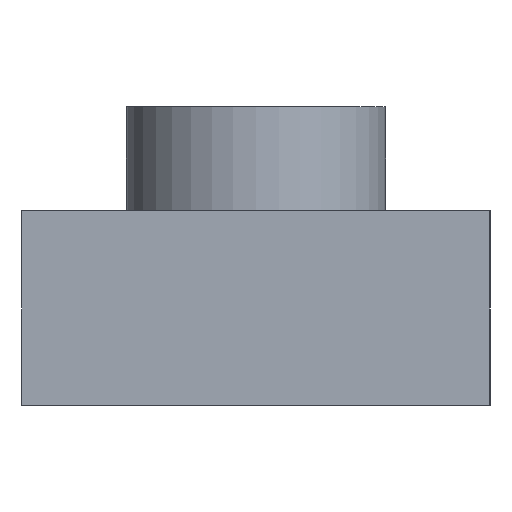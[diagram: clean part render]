
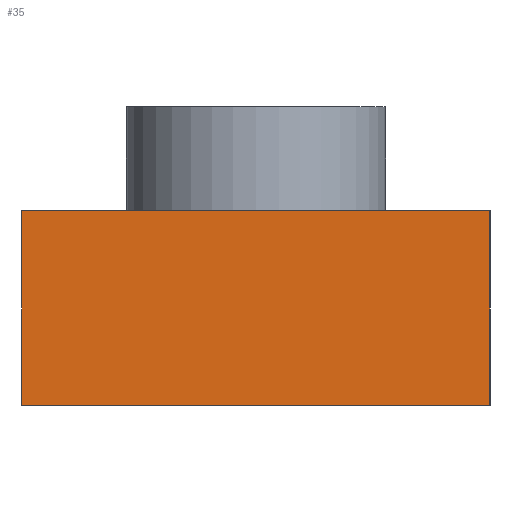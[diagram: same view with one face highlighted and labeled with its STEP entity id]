
A CAD part, left-side view. The second image highlights one B-rep face of the part: STEP entity #35.
In plain terms, the highlighted planar face has unit normal (-1, 0, 0).
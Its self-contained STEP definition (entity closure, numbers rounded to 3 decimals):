
#35 = ADVANCED_FACE('',(#36),#50,.F.);
#36 = FACE_BOUND('',#37,.F.);
#37 = EDGE_LOOP('',(#38,#73,#101,#129));
#38 = ORIENTED_EDGE('',*,*,#39,.F.);
#39 = EDGE_CURVE('',#40,#42,#44,.T.);
#40 = VERTEX_POINT('',#41);
#41 = CARTESIAN_POINT('',(14.2,-173.8,22.5));
#42 = VERTEX_POINT('',#43);
#43 = CARTESIAN_POINT('',(14.2,-173.8,24.));
#44 = SURFACE_CURVE('',#45,(#49,#61),.PCURVE_S1.);
#45 = LINE('',#46,#47);
#46 = CARTESIAN_POINT('',(14.2,-173.8,22.5));
#47 = VECTOR('',#48,1.);
#48 = DIRECTION('',(0.,0.,1.));
#49 = PCURVE('',#50,#55);
#50 = PLANE('',#51);
#51 = AXIS2_PLACEMENT_3D('',#52,#53,#54);
#52 = CARTESIAN_POINT('',(14.2,-173.8,22.5));
#53 = DIRECTION('',(1.,0.,0.));
#54 = DIRECTION('',(0.,0.,1.));
#55 = DEFINITIONAL_REPRESENTATION('',(#56),#60);
#56 = LINE('',#57,#58);
#57 = CARTESIAN_POINT('',(0.,0.));
#58 = VECTOR('',#59,1.);
#59 = DIRECTION('',(1.,0.));
#60 = ( GEOMETRIC_REPRESENTATION_CONTEXT(2) 
PARAMETRIC_REPRESENTATION_CONTEXT() REPRESENTATION_CONTEXT('2D SPACE',''
  ) );
#61 = PCURVE('',#62,#67);
#62 = PLANE('',#63);
#63 = AXIS2_PLACEMENT_3D('',#64,#65,#66);
#64 = CARTESIAN_POINT('',(14.2,-173.8,22.5));
#65 = DIRECTION('',(0.,1.,0.));
#66 = DIRECTION('',(0.,0.,1.));
#67 = DEFINITIONAL_REPRESENTATION('',(#68),#72);
#68 = LINE('',#69,#70);
#69 = CARTESIAN_POINT('',(0.,0.));
#70 = VECTOR('',#71,1.);
#71 = DIRECTION('',(1.,0.));
#72 = ( GEOMETRIC_REPRESENTATION_CONTEXT(2) 
PARAMETRIC_REPRESENTATION_CONTEXT() REPRESENTATION_CONTEXT('2D SPACE',''
  ) );
#73 = ORIENTED_EDGE('',*,*,#74,.T.);
#74 = EDGE_CURVE('',#40,#75,#77,.T.);
#75 = VERTEX_POINT('',#76);
#76 = CARTESIAN_POINT('',(14.2,-170.2,22.5));
#77 = SURFACE_CURVE('',#78,(#82,#89),.PCURVE_S1.);
#78 = LINE('',#79,#80);
#79 = CARTESIAN_POINT('',(14.2,-173.8,22.5));
#80 = VECTOR('',#81,1.);
#81 = DIRECTION('',(0.,1.,0.));
#82 = PCURVE('',#50,#83);
#83 = DEFINITIONAL_REPRESENTATION('',(#84),#88);
#84 = LINE('',#85,#86);
#85 = CARTESIAN_POINT('',(0.,0.));
#86 = VECTOR('',#87,1.);
#87 = DIRECTION('',(0.,-1.));
#88 = ( GEOMETRIC_REPRESENTATION_CONTEXT(2) 
PARAMETRIC_REPRESENTATION_CONTEXT() REPRESENTATION_CONTEXT('2D SPACE',''
  ) );
#89 = PCURVE('',#90,#95);
#90 = PLANE('',#91);
#91 = AXIS2_PLACEMENT_3D('',#92,#93,#94);
#92 = CARTESIAN_POINT('',(14.2,-173.8,22.5));
#93 = DIRECTION('',(0.,0.,1.));
#94 = DIRECTION('',(1.,0.,0.));
#95 = DEFINITIONAL_REPRESENTATION('',(#96),#100);
#96 = LINE('',#97,#98);
#97 = CARTESIAN_POINT('',(0.,0.));
#98 = VECTOR('',#99,1.);
#99 = DIRECTION('',(0.,1.));
#100 = ( GEOMETRIC_REPRESENTATION_CONTEXT(2) 
PARAMETRIC_REPRESENTATION_CONTEXT() REPRESENTATION_CONTEXT('2D SPACE',''
  ) );
#101 = ORIENTED_EDGE('',*,*,#102,.T.);
#102 = EDGE_CURVE('',#75,#103,#105,.T.);
#103 = VERTEX_POINT('',#104);
#104 = CARTESIAN_POINT('',(14.2,-170.2,24.));
#105 = SURFACE_CURVE('',#106,(#110,#117),.PCURVE_S1.);
#106 = LINE('',#107,#108);
#107 = CARTESIAN_POINT('',(14.2,-170.2,22.5));
#108 = VECTOR('',#109,1.);
#109 = DIRECTION('',(0.,0.,1.));
#110 = PCURVE('',#50,#111);
#111 = DEFINITIONAL_REPRESENTATION('',(#112),#116);
#112 = LINE('',#113,#114);
#113 = CARTESIAN_POINT('',(0.,-3.6));
#114 = VECTOR('',#115,1.);
#115 = DIRECTION('',(1.,0.));
#116 = ( GEOMETRIC_REPRESENTATION_CONTEXT(2) 
PARAMETRIC_REPRESENTATION_CONTEXT() REPRESENTATION_CONTEXT('2D SPACE',''
  ) );
#117 = PCURVE('',#118,#123);
#118 = PLANE('',#119);
#119 = AXIS2_PLACEMENT_3D('',#120,#121,#122);
#120 = CARTESIAN_POINT('',(14.2,-170.2,22.5));
#121 = DIRECTION('',(0.,1.,0.));
#122 = DIRECTION('',(0.,0.,1.));
#123 = DEFINITIONAL_REPRESENTATION('',(#124),#128);
#124 = LINE('',#125,#126);
#125 = CARTESIAN_POINT('',(0.,0.));
#126 = VECTOR('',#127,1.);
#127 = DIRECTION('',(1.,0.));
#128 = ( GEOMETRIC_REPRESENTATION_CONTEXT(2) 
PARAMETRIC_REPRESENTATION_CONTEXT() REPRESENTATION_CONTEXT('2D SPACE',''
  ) );
#129 = ORIENTED_EDGE('',*,*,#130,.F.);
#130 = EDGE_CURVE('',#42,#103,#131,.T.);
#131 = SURFACE_CURVE('',#132,(#136,#143),.PCURVE_S1.);
#132 = LINE('',#133,#134);
#133 = CARTESIAN_POINT('',(14.2,-173.8,24.));
#134 = VECTOR('',#135,1.);
#135 = DIRECTION('',(0.,1.,0.));
#136 = PCURVE('',#50,#137);
#137 = DEFINITIONAL_REPRESENTATION('',(#138),#142);
#138 = LINE('',#139,#140);
#139 = CARTESIAN_POINT('',(1.5,0.));
#140 = VECTOR('',#141,1.);
#141 = DIRECTION('',(0.,-1.));
#142 = ( GEOMETRIC_REPRESENTATION_CONTEXT(2) 
PARAMETRIC_REPRESENTATION_CONTEXT() REPRESENTATION_CONTEXT('2D SPACE',''
  ) );
#143 = PCURVE('',#144,#149);
#144 = PLANE('',#145);
#145 = AXIS2_PLACEMENT_3D('',#146,#147,#148);
#146 = CARTESIAN_POINT('',(14.2,-173.8,24.));
#147 = DIRECTION('',(0.,0.,1.));
#148 = DIRECTION('',(1.,0.,0.));
#149 = DEFINITIONAL_REPRESENTATION('',(#150),#154);
#150 = LINE('',#151,#152);
#151 = CARTESIAN_POINT('',(0.,0.));
#152 = VECTOR('',#153,1.);
#153 = DIRECTION('',(0.,1.));
#154 = ( GEOMETRIC_REPRESENTATION_CONTEXT(2) 
PARAMETRIC_REPRESENTATION_CONTEXT() REPRESENTATION_CONTEXT('2D SPACE',''
  ) );
